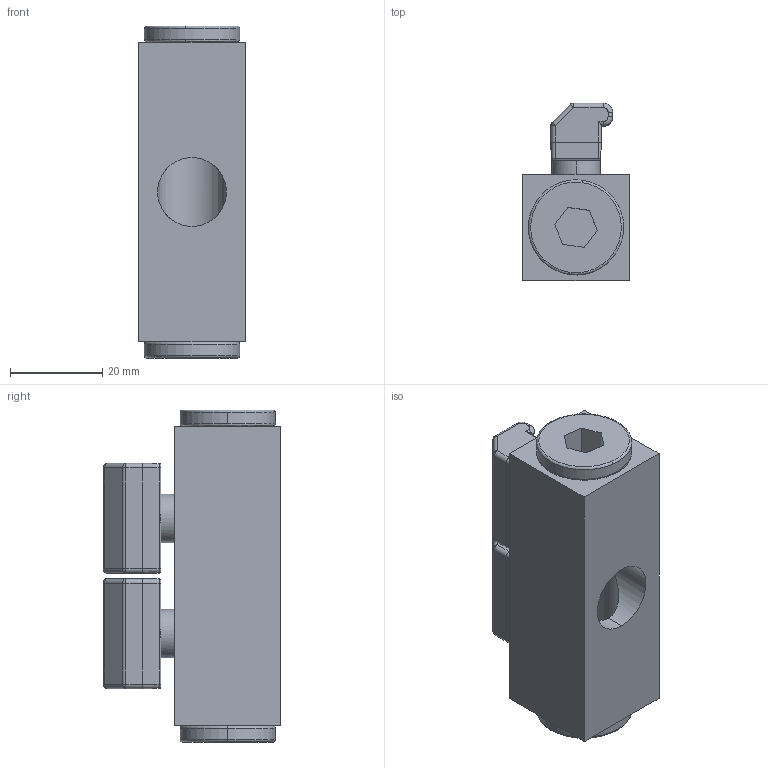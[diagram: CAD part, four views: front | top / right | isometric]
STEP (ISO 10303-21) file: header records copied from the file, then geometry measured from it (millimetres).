
FILE_DESCRIPTION (( 'STEP AP203' ), '1' );
FILE_NAME ('SILVENT 362.STEP', '2019-02-12T15:25:17', ( '' ), ( '' ), 'SwSTEP 2.0', 'SolidWorks 2016', '' );
FILE_SCHEMA (( 'CONFIG_CONTROL_DESIGN' ));
Length unit declared in the file: millimetre
Products named in the file (1): SILVENT 362
Bounding box: 23 x 38.5 x 72 mm (x, y, z)
Volume: 34024.5 mm3; surface area: 16598.7 mm2
Topology: 5 solids, 5 shells, 502 faces, 1256 edges, 784 vertices
Faces by surface type: plane 270, cylinder 152, torus 36, bspline 28, cone 16
Entity records: 19663 total; most frequent: CARTESIAN_POINT 7629, ORIENTED_EDGE 2504, DIRECTION 2462, EDGE_CURVE 1252, LINE 852, VECTOR 852, AXIS2_PLACEMENT_3D 805, VERTEX_POINT 784
